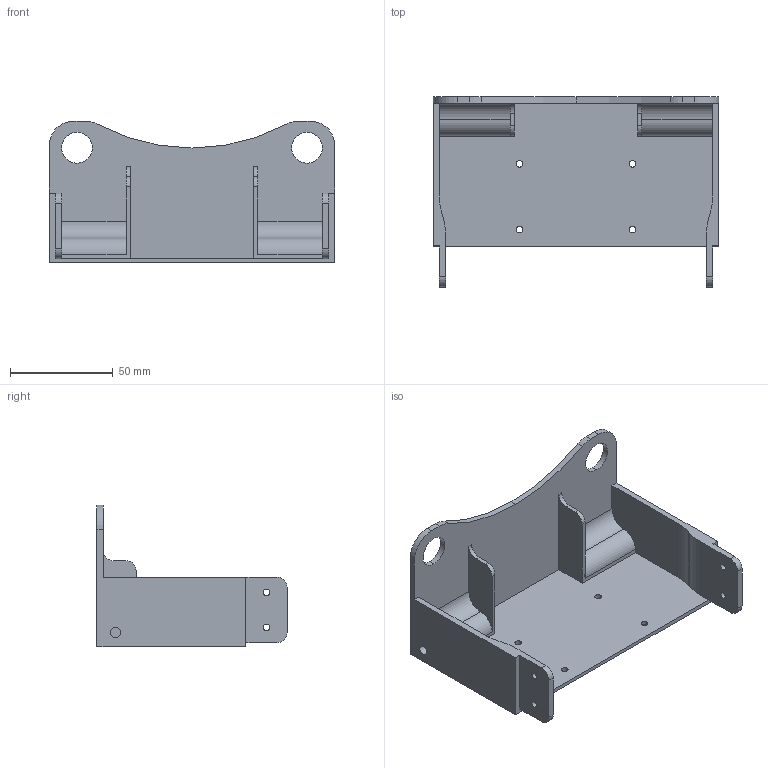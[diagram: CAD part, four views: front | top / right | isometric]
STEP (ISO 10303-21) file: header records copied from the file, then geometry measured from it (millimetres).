
FILE_DESCRIPTION (( 'STEP AP203' ), '1' );
FILE_NAME ('casing_a.STEP', '2019-07-18T16:14:46', ( '' ), ( '' ), 'SwSTEP 2.0', 'SolidWorks 2017', '' );
FILE_SCHEMA (( 'CONFIG_CONTROL_DESIGN' ));
Length unit declared in the file: millimetre
Products named in the file (1): casing_a
Bounding box: 139 x 92.5 x 69 mm (x, y, z)
Volume: 76713.1 mm3; surface area: 51861.6 mm2
Topology: 1 solids, 1 shells, 79 faces, 223 edges, 148 vertices
Faces by surface type: cylinder 46, plane 33
Entity records: 2710 total; most frequent: DIRECTION 475, CARTESIAN_POINT 451, ORIENTED_EDGE 446, EDGE_CURVE 223, AXIS2_PLACEMENT_3D 172, VERTEX_POINT 148, VECTOR 131, LINE 131
